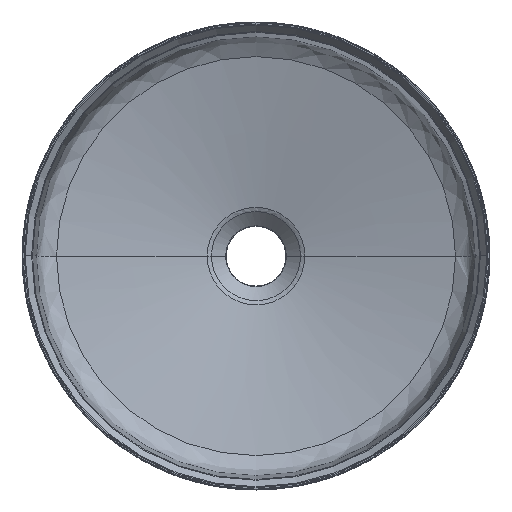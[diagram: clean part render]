
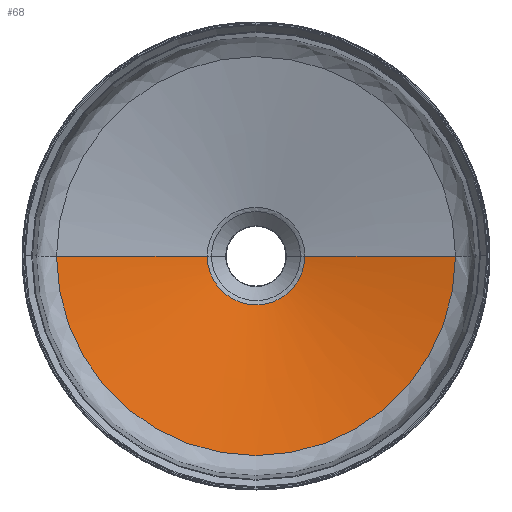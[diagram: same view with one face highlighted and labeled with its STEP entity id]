
A CAD part, top view. The second image highlights one B-rep face of the part: STEP entity #68.
In plain terms, the highlighted free-form (B-spline) face has degree [1, 2] with [2, 5] control points.
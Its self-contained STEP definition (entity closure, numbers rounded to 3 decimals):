
#68=ADVANCED_FACE('',(#180),#1594,.T.);
#180=FACE_OUTER_BOUND('',#292,.T.);
#292=EDGE_LOOP('',(#566,#567,#568,#569));
#566=ORIENTED_EDGE('',*,*,#912,.F.);
#567=ORIENTED_EDGE('',*,*,#906,.T.);
#568=ORIENTED_EDGE('',*,*,#1020,.F.);
#569=ORIENTED_EDGE('',*,*,#1021,.F.);
#906=EDGE_CURVE('',#1462,#1460,#1075,.T.);
#912=EDGE_CURVE('',#1462,#1464,#1080,.T.);
#1020=EDGE_CURVE('',#1518,#1460,#1245,.T.);
#1021=EDGE_CURVE('',#1464,#1518,#1084,.T.);
#1075=(
BOUNDED_CURVE()
B_SPLINE_CURVE(1,(#4146,#4147),.UNSPECIFIED.,.F.,.F.)
B_SPLINE_CURVE_WITH_KNOTS((2,2),(31.461,153.188),
 .UNSPECIFIED.)
CURVE()
GEOMETRIC_REPRESENTATION_ITEM()
RATIONAL_B_SPLINE_CURVE((1.,1.))
REPRESENTATION_ITEM('')
);
#1080=(
BOUNDED_CURVE()
B_SPLINE_CURVE(3,(#4304,#4305,#4306,#4307,#4308,#4309,#4310,#4311,#4312,
#4313,#4314,#4315,#4316,#4317,#4318,#4319,#4320,#4321,#4322,#4323,#4324,
#4325,#4326,#4327,#4328,#4329,#4330,#4331,#4332,#4333,#4334,#4335,#4336,
#4337,#4338,#4339,#4340,#4341,#4342,#4343,#4344,#4345,#4346,#4347,#4348,
#4349,#4350,#4351,#4352,#4353,#4354,#4355),.UNSPECIFIED.,.F.,.F.)
B_SPLINE_CURVE_WITH_KNOTS((4,3,3,3,3,3,3,3,3,3,3,3,3,3,3,3,3,4),(-246.3,
-238.73,-231.16,-223.59,-216.02,
-208.305,-200.59,-192.875,-185.159,
-177.481,-169.802,-162.124,-154.445,
-146.676,-138.906,-131.137,-123.367,
-123.15),.UNSPECIFIED.)
CURVE()
GEOMETRIC_REPRESENTATION_ITEM()
RATIONAL_B_SPLINE_CURVE((1.,1.,1.,1.,1.,1.,1.,1.,1.,1.,1.,1.,1.,1.,1.,1.,
1.,1.,1.,1.,
1.,1.,1.,1.,1.,1.,1.,1.,1.,1.,1.,1.,1.,1.,1.,1.,1.,1.,1.,
1.,1.,1.,1.,1.,1.,1.,
1.,1.,1.,1.,1.,1.))
REPRESENTATION_ITEM('')
);
#1084=(
BOUNDED_CURVE()
B_SPLINE_CURVE(1,(#4653,#4654),.UNSPECIFIED.,.F.,.F.)
B_SPLINE_CURVE_WITH_KNOTS((2,2),(31.461,153.188),
 .UNSPECIFIED.)
CURVE()
GEOMETRIC_REPRESENTATION_ITEM()
RATIONAL_B_SPLINE_CURVE((1.,1.))
REPRESENTATION_ITEM('')
);
#1245=TRIMMED_CURVE($,#1406,(#4651),(#4652),.T.,.CARTESIAN.);
#1406=CIRCLE('',#1921,153.51);
#1460=VERTEX_POINT('',#3790);
#1462=VERTEX_POINT('',#3792);
#1464=VERTEX_POINT('',#3794);
#1518=VERTEX_POINT('',#3848);
#1594=(
BOUNDED_SURFACE()
B_SPLINE_SURFACE(1,2,((#2928,#2929,#2930,#2931,#2932),(#2933,#2934,#2935,
#2936,#2937)),.UNSPECIFIED.,.F.,.F.,.F.)
B_SPLINE_SURFACE_WITH_KNOTS((2,2),(3,2,3),(29.489,153.188),
(0.,241.134,482.267),.UNSPECIFIED.)
GEOMETRIC_REPRESENTATION_ITEM()
RATIONAL_B_SPLINE_SURFACE(((1.,0.707,1.,0.707,1.),
(1.,0.707,1.,0.707,1.)))
REPRESENTATION_ITEM('')
SURFACE()
);
#1921=AXIS2_PLACEMENT_3D($,#4650,#2287,#2288);
#2287=DIRECTION('',(0.,0.,-1.));
#2288=DIRECTION('',(1.,0.,0.));
#2928=CARTESIAN_POINT('',(-23267.3,36329.64,-1545.303));
#2929=CARTESIAN_POINT('',(-23267.3,36293.988,-1545.303));
#2930=CARTESIAN_POINT('',(-23231.649,36293.988,-1545.303));
#2931=CARTESIAN_POINT('',(-23195.998,36293.988,-1545.303));
#2932=CARTESIAN_POINT('',(-23195.998,36329.64,-1545.303));
#2933=CARTESIAN_POINT('',(-23385.159,36329.64,-1518.384));
#2934=CARTESIAN_POINT('',(-23385.159,36176.129,-1518.384));
#2935=CARTESIAN_POINT('',(-23231.649,36176.129,-1518.384));
#2936=CARTESIAN_POINT('',(-23078.138,36176.129,-1518.384));
#2937=CARTESIAN_POINT('',(-23078.138,36329.64,-1518.384));
#3790=CARTESIAN_POINT('',(-23385.159,36329.64,-1518.384));
#3792=CARTESIAN_POINT('',(-23269.179,36329.64,-1544.874));
#3794=CARTESIAN_POINT('',(-23194.119,36329.64,-1544.874));
#3848=CARTESIAN_POINT('',(-23078.138,36329.64,-1518.384));
#4146=CARTESIAN_POINT('',(-23269.179,36329.64,-1544.874));
#4147=CARTESIAN_POINT('',(-23385.159,36329.64,-1518.384));
#4304=CARTESIAN_POINT('',(-23269.179,36329.64,-1544.874));
#4305=CARTESIAN_POINT('',(-23269.179,36327.224,-1544.874));
#4306=CARTESIAN_POINT('',(-23268.945,36324.808,-1544.874));
#4307=CARTESIAN_POINT('',(-23268.481,36322.437,-1544.874));
#4308=CARTESIAN_POINT('',(-23268.018,36320.066,-1544.874));
#4309=CARTESIAN_POINT('',(-23267.324,36317.74,-1544.874));
#4310=CARTESIAN_POINT('',(-23266.414,36315.502,-1544.874));
#4311=CARTESIAN_POINT('',(-23265.504,36313.264,-1544.874));
#4312=CARTESIAN_POINT('',(-23264.378,36311.115,-1544.874));
#4313=CARTESIAN_POINT('',(-23263.055,36309.093,-1544.874));
#4314=CARTESIAN_POINT('',(-23261.732,36307.071,-1544.874));
#4315=CARTESIAN_POINT('',(-23260.214,36305.178,-1544.874));
#4316=CARTESIAN_POINT('',(-23258.528,36303.448,-1544.874));
#4317=CARTESIAN_POINT('',(-23256.81,36301.684,-1544.874));
#4318=CARTESIAN_POINT('',(-23254.917,36300.09,-1544.874));
#4319=CARTESIAN_POINT('',(-23252.887,36298.697,-1544.874));
#4320=CARTESIAN_POINT('',(-23250.857,36297.304,-1544.874));
#4321=CARTESIAN_POINT('',(-23248.69,36296.111,-1544.874));
#4322=CARTESIAN_POINT('',(-23246.426,36295.141,-1544.874));
#4323=CARTESIAN_POINT('',(-23244.163,36294.172,-1544.874));
#4324=CARTESIAN_POINT('',(-23241.804,36293.426,-1544.874));
#4325=CARTESIAN_POINT('',(-23239.395,36292.918,-1544.874));
#4326=CARTESIAN_POINT('',(-23236.986,36292.409,-1544.874));
#4327=CARTESIAN_POINT('',(-23234.526,36292.139,-1544.874));
#4328=CARTESIAN_POINT('',(-23232.064,36292.112,-1544.874));
#4329=CARTESIAN_POINT('',(-23229.614,36292.085,-1544.874));
#4330=CARTESIAN_POINT('',(-23227.161,36292.298,-1544.874));
#4331=CARTESIAN_POINT('',(-23224.752,36292.749,-1544.874));
#4332=CARTESIAN_POINT('',(-23222.344,36293.199,-1544.874));
#4333=CARTESIAN_POINT('',(-23219.979,36293.886,-1544.874));
#4334=CARTESIAN_POINT('',(-23217.704,36294.796,-1544.874));
#4335=CARTESIAN_POINT('',(-23215.429,36295.707,-1544.874));
#4336=CARTESIAN_POINT('',(-23213.243,36296.841,-1544.874));
#4337=CARTESIAN_POINT('',(-23211.189,36298.177,-1544.874));
#4338=CARTESIAN_POINT('',(-23209.135,36299.513,-1544.874));
#4339=CARTESIAN_POINT('',(-23207.212,36301.05,-1544.874));
#4340=CARTESIAN_POINT('',(-23205.457,36302.761,-1544.874));
#4341=CARTESIAN_POINT('',(-23203.681,36304.491,-1544.874));
#4342=CARTESIAN_POINT('',(-23202.077,36306.398,-1544.874));
#4343=CARTESIAN_POINT('',(-23200.677,36308.444,-1544.874));
#4344=CARTESIAN_POINT('',(-23199.276,36310.49,-1544.874));
#4345=CARTESIAN_POINT('',(-23198.08,36312.676,-1544.874));
#4346=CARTESIAN_POINT('',(-23197.11,36314.958,-1544.874));
#4347=CARTESIAN_POINT('',(-23196.14,36317.24,-1544.874));
#4348=CARTESIAN_POINT('',(-23195.396,36319.618,-1544.874));
#4349=CARTESIAN_POINT('',(-23194.895,36322.046,-1544.874));
#4350=CARTESIAN_POINT('',(-23194.393,36324.474,-1544.874));
#4351=CARTESIAN_POINT('',(-23194.133,36326.952,-1544.874));
#4352=CARTESIAN_POINT('',(-23194.119,36329.432,-1544.874));
#4353=CARTESIAN_POINT('',(-23194.119,36329.501,-1544.874));
#4354=CARTESIAN_POINT('',(-23194.119,36329.57,-1544.874));
#4355=CARTESIAN_POINT('',(-23194.119,36329.64,-1544.874));
#4650=CARTESIAN_POINT('',(-23231.649,36329.64,-1518.384));
#4651=CARTESIAN_POINT('',(-23078.138,36329.64,-1518.384));
#4652=CARTESIAN_POINT('',(-23385.159,36329.64,-1518.384));
#4653=CARTESIAN_POINT('',(-23194.119,36329.64,-1544.874));
#4654=CARTESIAN_POINT('',(-23078.138,36329.64,-1518.384));
